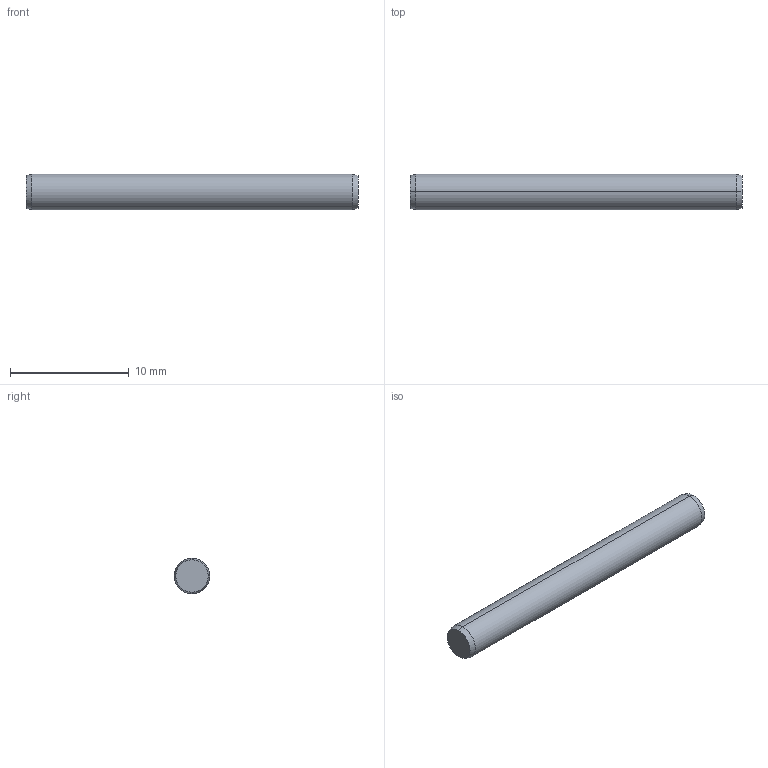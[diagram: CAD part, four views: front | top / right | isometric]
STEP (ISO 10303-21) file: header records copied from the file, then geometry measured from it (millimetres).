
FILE_DESCRIPTION (( 'STEP AP203' ), '1' );
FILE_NAME ('P1206.030-028.step', '2017-06-14T08:05:58', ( 'User' ), ( '' ), 'SwSTEP 2.0', 'SolidWorks 2009', '' );
FILE_SCHEMA (( 'CONFIG_CONTROL_DESIGN' ));
Length unit declared in the file: millimetre
Products named in the file (1): P1206.030-028
Bounding box: 28 x 3 x 3 mm (x, y, z)
Volume: 197.3 mm3; surface area: 275.5 mm2
Topology: 1 solids, 1 shells, 8 faces, 14 edges, 8 vertices
Faces by surface type: cone 4, cylinder 2, plane 2
Entity records: 271 total; most frequent: DIRECTION 40, CARTESIAN_POINT 31, ORIENTED_EDGE 28, AXIS2_PLACEMENT_3D 17, EDGE_CURVE 14, EDGE_LOOP 8, ADVANCED_FACE 8, VERTEX_POINT 8
